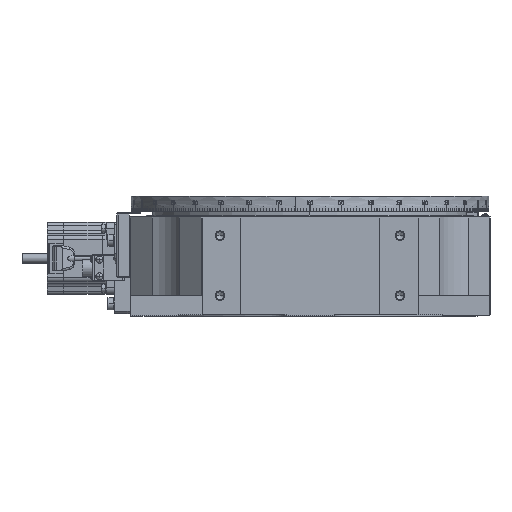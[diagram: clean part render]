
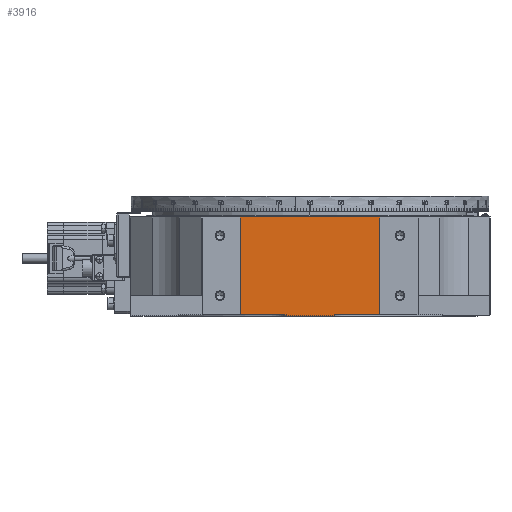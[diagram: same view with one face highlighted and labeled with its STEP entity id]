
A CAD part, front view. The second image highlights one B-rep face of the part: STEP entity #3916.
In plain terms, the highlighted planar face has unit normal (0, -1, 0).
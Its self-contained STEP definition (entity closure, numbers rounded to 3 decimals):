
#3916=ADVANCED_FACE('',(#44099),#44098,.T.);
#44098=PLANE('',#83609);
#44099=FACE_OUTER_BOUND('',#83610,.T.);
#83606=CARTESIAN_POINT('',(-68.,-149.5,-8.25));
#83607=DIRECTION('',(0.,-1.,0.));
#83608=DIRECTION('',(1.,0.,0.));
#83609=AXIS2_PLACEMENT_3D('',#83606,#83607,#83608);
#83610=EDGE_LOOP('',(#115415,#115416,#115417,#115418,#115419,#115420,#115421,#115422));
#115415=ORIENTED_EDGE('',*,*,#134178,.T.);
#115416=ORIENTED_EDGE('',*,*,#134182,.T.);
#115417=ORIENTED_EDGE('',*,*,#134183,.T.);
#115418=ORIENTED_EDGE('',*,*,#134184,.T.);
#115419=ORIENTED_EDGE('',*,*,#134185,.T.);
#115420=ORIENTED_EDGE('',*,*,#134186,.T.);
#115421=ORIENTED_EDGE('',*,*,#134181,.T.);
#115422=ORIENTED_EDGE('',*,*,#134080,.T.);
#134080=EDGE_CURVE('',#205090,#205083,#205091,.T.);
#134178=EDGE_CURVE('',#205083,#205748,#205756,.T.);
#134181=EDGE_CURVE('',#205768,#205090,#205775,.T.);
#134182=EDGE_CURVE('',#205748,#205781,#205782,.T.);
#134183=EDGE_CURVE('',#205781,#205788,#205789,.T.);
#134184=EDGE_CURVE('',#205788,#205795,#205796,.T.);
#134185=EDGE_CURVE('',#205795,#205802,#205803,.T.);
#134186=EDGE_CURVE('',#205802,#205768,#205809,.T.);
#205083=VERTEX_POINT('',#272894);
#205090=VERTEX_POINT('',#272898);
#205091=LINE('',#272899,#272900);
#205748=VERTEX_POINT('',#273290);
#205756=LINE('',#273295,#273296);
#205768=VERTEX_POINT('',#273301);
#205775=LINE('',#273305,#273306);
#205781=VERTEX_POINT('',#273308);
#205782=LINE('',#273309,#273310);
#205788=VERTEX_POINT('',#273312);
#205789=LINE('',#273313,#273314);
#205795=VERTEX_POINT('',#273316);
#205796=LINE('',#273317,#273318);
#205802=VERTEX_POINT('',#273320);
#205803=LINE('',#273321,#273322);
#205809=LINE('',#273324,#273325);
#272894=CARTESIAN_POINT('',(-58.,-149.5,82.5));
#272898=CARTESIAN_POINT('',(58.,-149.5,82.5));
#272899=CARTESIAN_POINT('',(58.,-149.5,82.5));
#272900=VECTOR('',#272901,116.);
#272901=DIRECTION('',(-1.,0.,0.));
#273290=CARTESIAN_POINT('',(-58.,-149.5,1.));
#273295=CARTESIAN_POINT('',(-58.,-149.5,82.5));
#273296=VECTOR('',#273297,81.5);
#273297=DIRECTION('',(0.,0.,-1.));
#273301=CARTESIAN_POINT('',(58.,-149.5,1.));
#273305=CARTESIAN_POINT('',(58.,-149.5,1.));
#273306=VECTOR('',#273307,81.5);
#273307=DIRECTION('',(0.,0.,1.));
#273308=CARTESIAN_POINT('',(-20.,-149.5,1.));
#273309=CARTESIAN_POINT('',(-58.,-149.5,1.));
#273310=VECTOR('',#273311,38.);
#273311=DIRECTION('',(1.,0.,0.));
#273312=CARTESIAN_POINT('',(-20.,-149.5,0.));
#273313=CARTESIAN_POINT('',(-20.,-149.5,1.));
#273314=VECTOR('',#273315,1.);
#273315=DIRECTION('',(0.,0.,-1.));
#273316=CARTESIAN_POINT('',(20.,-149.5,0.));
#273317=CARTESIAN_POINT('',(-20.,-149.5,0.));
#273318=VECTOR('',#273319,40.);
#273319=DIRECTION('',(1.,0.,0.));
#273320=CARTESIAN_POINT('',(20.,-149.5,1.));
#273321=CARTESIAN_POINT('',(20.,-149.5,0.));
#273322=VECTOR('',#273323,1.);
#273323=DIRECTION('',(0.,0.,1.));
#273324=CARTESIAN_POINT('',(20.,-149.5,1.));
#273325=VECTOR('',#273326,38.);
#273326=DIRECTION('',(1.,0.,0.));
